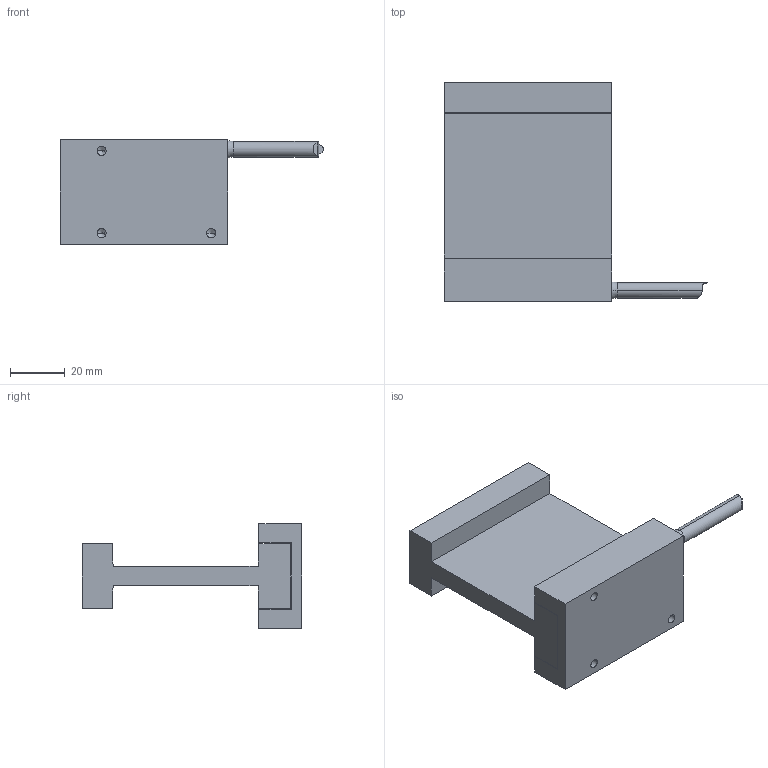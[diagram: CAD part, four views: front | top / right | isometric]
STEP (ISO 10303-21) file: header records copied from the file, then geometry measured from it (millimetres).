
FILE_DESCRIPTION (( 'STEP AP214' ), '1' );
FILE_NAME ('DX50F-C1-NH -REV00.step', '2022-05-06T02:57:00', ( '' ), ( '' ), 'SwSTEP 2.0', 'SolidWorks 2020', '' );
FILE_SCHEMA (( 'AUTOMOTIVE_DESIGN' ));
Length unit declared in the file: millimetre
Products named in the file (1): DX50F-C1-NH -REV00
Bounding box: 96 x 80 x 38.2 mm (x, y, z)
Volume: 75163.6 mm3; surface area: 26152.3 mm2
Topology: 3 solids, 3 shells, 69 faces, 168 edges, 104 vertices
Faces by surface type: plane 37, cylinder 22, cone 8, torus 2
Entity records: 2770 total; most frequent: CARTESIAN_POINT 361, DIRECTION 336, ORIENTED_EDGE 320, EDGE_CURVE 160, AXIS2_PLACEMENT_3D 115, LINE 106, VECTOR 106, VERTEX_POINT 104
